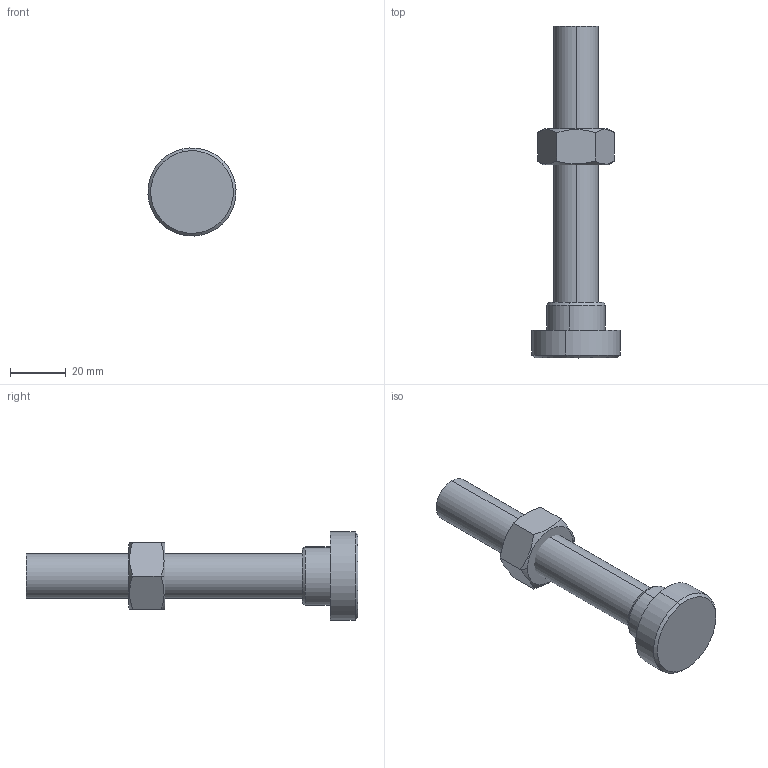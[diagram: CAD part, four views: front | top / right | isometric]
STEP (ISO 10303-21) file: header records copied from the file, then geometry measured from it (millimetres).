
FILE_DESCRIPTION (( 'STEP AP203' ), '1' );
FILE_NAME ('PA-M16.STEP', '2014-03-05T17:31:29', ( 'Ricardo' ), ( '' ), 'SwSTEP 2.0', 'SolidWorks 2012', '' );
FILE_SCHEMA (( 'CONFIG_CONTROL_DESIGN' ));
Length unit declared in the file: millimetre
Products named in the file (4): PA-M16; 11.50006; 20.20054; 20.20053
Assembly tree (3 placements, depth 2):
  PA-M16
    20.20053
    20.20054
    11.50006
Bounding box: 31.7 x 119.5 x 31.7 mm (x, y, z)
Volume: 34799.9 mm3; surface area: 12114.9 mm2
Topology: 3 solids, 3 shells, 44 faces, 94 edges, 57 vertices
Faces by surface type: cone 18, plane 14, cylinder 12
Entity records: 1702 total; most frequent: CARTESIAN_POINT 331, DIRECTION 224, ORIENTED_EDGE 184, AXIS2_PLACEMENT_3D 94, EDGE_CURVE 92, VERTEX_POINT 57, EDGE_LOOP 49, ADVANCED_FACE 44
